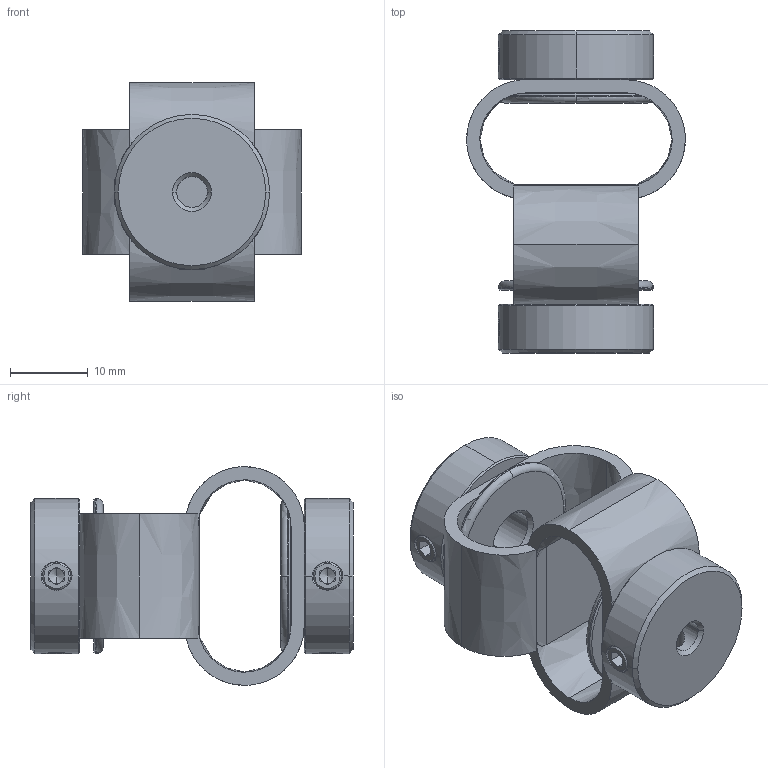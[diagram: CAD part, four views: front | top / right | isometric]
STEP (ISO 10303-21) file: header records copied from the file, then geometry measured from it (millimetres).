
FILE_DESCRIPTION (( 'STEP AP203' ), '1' );
FILE_NAME ('LS-D-D27L40-4-6.35.STEP', '2021-10-28T06:05:05', ( '' ), ( '' ), 'SwSTEP 2.0', 'SolidWorks 2018', '' );
FILE_SCHEMA (( 'CONFIG_CONTROL_DESIGN' ));
Length unit declared in the file: millimetre
Products named in the file (1): LS-D-D27L40-4-6.35
Bounding box: 28.2 x 41.54 x 28.2 mm (x, y, z)
Volume: 7409 mm3; surface area: 6693.5 mm2
Topology: 1 solids, 1 shells, 190 faces, 493 edges, 308 vertices
Faces by surface type: plane 86, cone 54, cylinder 30, bspline 16, torus 4
Entity records: 7784 total; most frequent: CARTESIAN_POINT 3215, ORIENTED_EDGE 970, DIRECTION 886, EDGE_CURVE 485, AXIS2_PLACEMENT_3D 345, VERTEX_POINT 308, EDGE_LOOP 217, LINE 196
